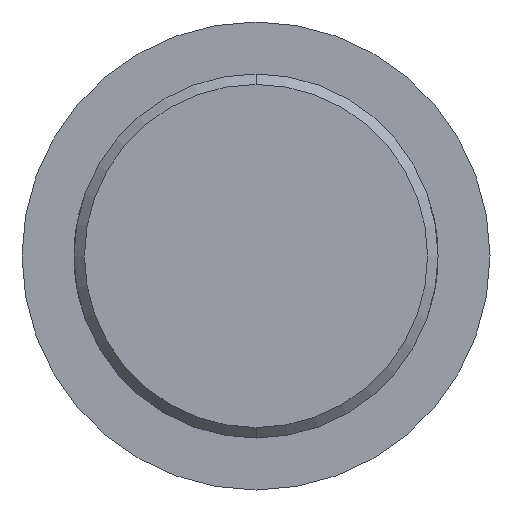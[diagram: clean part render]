
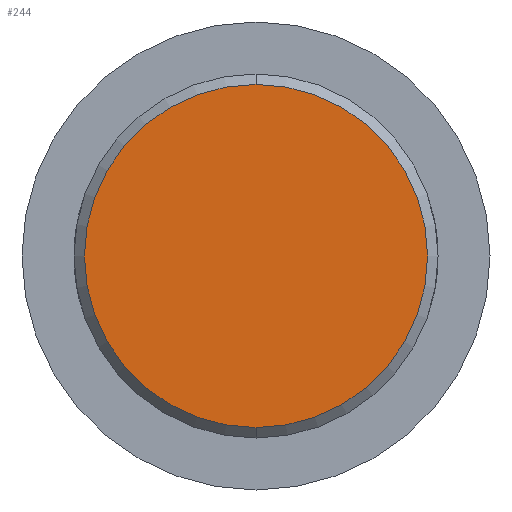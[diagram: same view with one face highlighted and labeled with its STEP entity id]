
A CAD part, front view. The second image highlights one B-rep face of the part: STEP entity #244.
In plain terms, the highlighted planar face has unit normal (0, -1, 0).
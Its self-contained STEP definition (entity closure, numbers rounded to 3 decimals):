
#6 = VERTEX_POINT ( 'NONE', #536 ) ;
#32 = EDGE_CURVE ( 'NONE', #368, #6, #413, .T. ) ;
#43 = CIRCLE ( 'NONE', #211, 16.5 ) ;
#88 = CARTESIAN_POINT ( 'NONE',  ( 0., -87., 0. ) ) ;
#95 = DIRECTION ( 'NONE',  ( 0., 0., -1. ) ) ;
#104 = DIRECTION ( 'NONE',  ( 0., -1., 0. ) ) ;
#199 = ORIENTED_EDGE ( 'NONE', *, *, #384, .T. ) ;
#210 = CARTESIAN_POINT ( 'NONE',  ( 0., -87., 0. ) ) ;
#211 = AXIS2_PLACEMENT_3D ( 'NONE', #88, #517, #95 ) ;
#244 = ADVANCED_FACE ( 'NONE', ( #531 ), #360, .T. ) ;
#248 = DIRECTION ( 'NONE',  ( 0., 0., -1. ) ) ;
#284 = AXIS2_PLACEMENT_3D ( 'NONE', #210, #420, #248 ) ;
#316 = CARTESIAN_POINT ( 'NONE',  ( 0., -87., 0. ) ) ;
#323 = CARTESIAN_POINT ( 'NONE',  ( 0., -87., -16.5 ) ) ;
#360 = PLANE ( 'NONE',  #362 ) ;
#362 = AXIS2_PLACEMENT_3D ( 'NONE', #316, #104, #443 ) ;
#367 = ORIENTED_EDGE ( 'NONE', *, *, #32, .T. ) ;
#368 = VERTEX_POINT ( 'NONE', #323 ) ;
#372 = EDGE_LOOP ( 'NONE', ( #199, #367 ) ) ;
#384 = EDGE_CURVE ( 'NONE', #6, #368, #43, .T. ) ;
#413 = CIRCLE ( 'NONE', #284, 16.5 ) ;
#420 = DIRECTION ( 'NONE',  ( 0., -1., 0. ) ) ;
#443 = DIRECTION ( 'NONE',  ( 0., 0., -1. ) ) ;
#517 = DIRECTION ( 'NONE',  ( 0., -1., 0. ) ) ;
#531 = FACE_OUTER_BOUND ( 'NONE', #372, .T. ) ;
#536 = CARTESIAN_POINT ( 'NONE',  ( 0., -87., 16.5 ) ) ;
